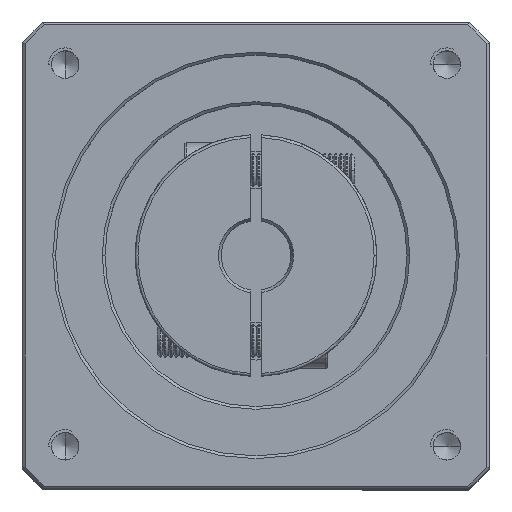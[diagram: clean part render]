
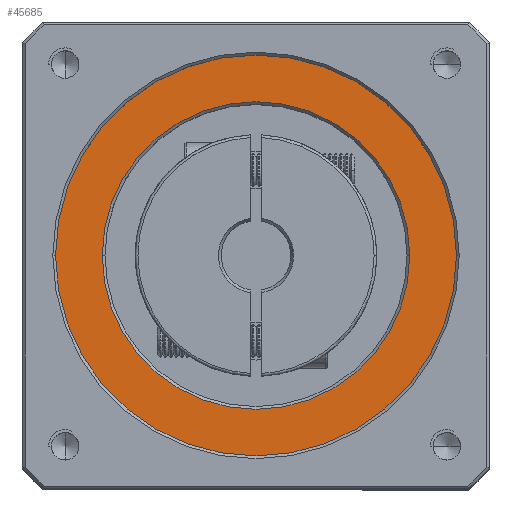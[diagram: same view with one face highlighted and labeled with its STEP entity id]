
A CAD part, top view. The second image highlights one B-rep face of the part: STEP entity #45685.
In plain terms, the highlighted planar face has unit normal (0, 0, 1).
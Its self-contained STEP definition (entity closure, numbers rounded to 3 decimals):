
#6214 = CIRCLE ( 'NONE', #38993, 36.5 ) ;
#12035 = VERTEX_POINT ( 'NONE', #13273 ) ;
#13273 = CARTESIAN_POINT ( 'NONE',  ( 12.542, -3.838, 176.5 ) ) ;
#17311 = CARTESIAN_POINT ( 'NONE',  ( -23.958, -3.838, 176.5 ) ) ;
#17501 = CIRCLE ( 'NONE', #92052, 28. ) ;
#19776 = AXIS2_PLACEMENT_3D ( 'NONE', #28136, #86749, #106756 ) ;
#24599 = CIRCLE ( 'NONE', #19776, 28. ) ;
#28136 = CARTESIAN_POINT ( 'NONE',  ( -23.958, -3.838, 176.5 ) ) ;
#28894 = DIRECTION ( 'NONE',  ( 1., 0., 0. ) ) ;
#30400 = DIRECTION ( 'NONE',  ( 1., 0., 0. ) ) ;
#30814 = CARTESIAN_POINT ( 'NONE',  ( -23.958, -3.838, 176.5 ) ) ;
#38993 = AXIS2_PLACEMENT_3D ( 'NONE', #30814, #51769, #30400 ) ;
#39680 = ORIENTED_EDGE ( 'NONE', *, *, #92219, .T. ) ;
#41839 = EDGE_LOOP ( 'NONE', ( #39680, #82143 ) ) ;
#43911 = CARTESIAN_POINT ( 'NONE',  ( -23.958, -3.838, 176.5 ) ) ;
#45685 = ADVANCED_FACE ( 'NONE', ( #96086, #57016 ), #127337, .T. ) ;
#47529 = ORIENTED_EDGE ( 'NONE', *, *, #65442, .T. ) ;
#48133 = CIRCLE ( 'NONE', #101230, 36.5 ) ;
#50894 = CARTESIAN_POINT ( 'NONE',  ( 4.042, -3.838, 176.5 ) ) ;
#51769 = DIRECTION ( 'NONE',  ( 0., 0., 1. ) ) ;
#52246 = VERTEX_POINT ( 'NONE', #50894 ) ;
#57016 = FACE_BOUND ( 'NONE', #111529, .T. ) ;
#57278 = ORIENTED_EDGE ( 'NONE', *, *, #115684, .T. ) ;
#58210 = CARTESIAN_POINT ( 'NONE',  ( -23.958, -3.838, 176.5 ) ) ;
#59501 = DIRECTION ( 'NONE',  ( 0., 0., -1. ) ) ;
#62250 = CARTESIAN_POINT ( 'NONE',  ( -51.958, -3.838, 176.5 ) ) ;
#65442 = EDGE_CURVE ( 'NONE', #75259, #52246, #24599, .T. ) ;
#71522 = CARTESIAN_POINT ( 'NONE',  ( -60.458, -3.838, 176.5 ) ) ;
#75259 = VERTEX_POINT ( 'NONE', #62250 ) ;
#76776 = EDGE_CURVE ( 'NONE', #82829, #12035, #6214, .T. ) ;
#78478 = DIRECTION ( 'NONE',  ( 0., 0., 1. ) ) ;
#82143 = ORIENTED_EDGE ( 'NONE', *, *, #76776, .T. ) ;
#82819 = DIRECTION ( 'NONE',  ( 0., 0., 1. ) ) ;
#82829 = VERTEX_POINT ( 'NONE', #71522 ) ;
#86749 = DIRECTION ( 'NONE',  ( 0., 0., -1. ) ) ;
#92052 = AXIS2_PLACEMENT_3D ( 'NONE', #58210, #59501, #28894 ) ;
#92219 = EDGE_CURVE ( 'NONE', #12035, #82829, #48133, .T. ) ;
#92858 = DIRECTION ( 'NONE',  ( 1., 0., 0. ) ) ;
#96086 = FACE_OUTER_BOUND ( 'NONE', #41839, .T. ) ;
#101230 = AXIS2_PLACEMENT_3D ( 'NONE', #43911, #82819, #92858 ) ;
#106756 = DIRECTION ( 'NONE',  ( 1., 0., 0. ) ) ;
#106830 = DIRECTION ( 'NONE',  ( 1., 0., 0. ) ) ;
#111529 = EDGE_LOOP ( 'NONE', ( #57278, #47529 ) ) ;
#111937 = AXIS2_PLACEMENT_3D ( 'NONE', #17311, #78478, #106830 ) ;
#115684 = EDGE_CURVE ( 'NONE', #52246, #75259, #17501, .T. ) ;
#127337 = PLANE ( 'NONE',  #111937 ) ;
